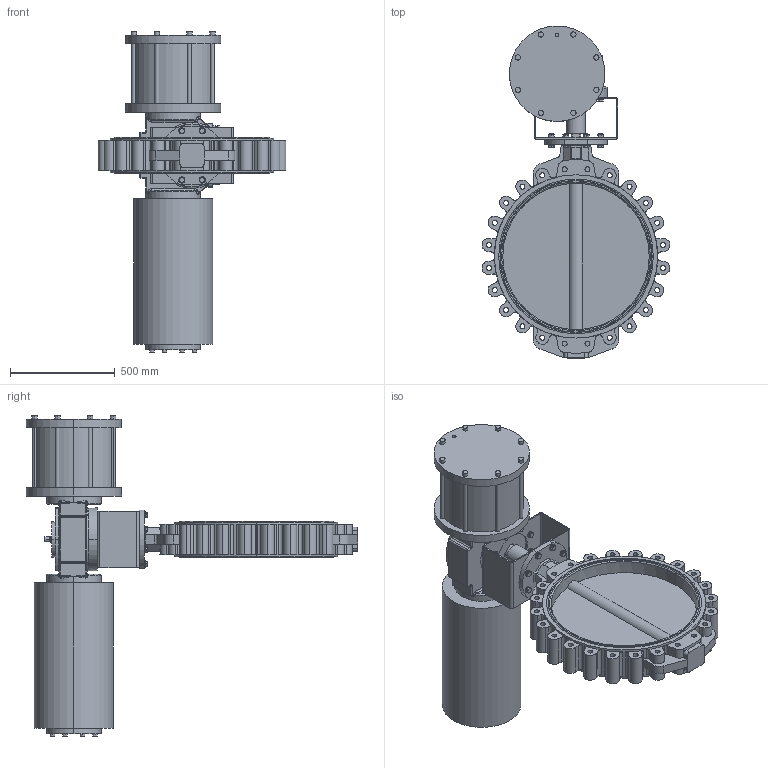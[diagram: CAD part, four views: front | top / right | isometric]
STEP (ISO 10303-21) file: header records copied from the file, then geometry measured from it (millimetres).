
FILE_DESCRIPTION (( 'STEP AP214' ), '1' );
FILE_NAME ('67383.step', '2020-10-23T12:39:24', ( '' ), ( '' ), 'SwSTEP 2.0', 'SolidWorks 2019', '' );
FILE_SCHEMA (( 'AUTOMOTIVE_DESIGN' ));
Length unit declared in the file: millimetre
Products named in the file (10): 6kt-Schr DIN 933_M16x55; SY01F25-400 SR6; 6kt-Schr DIN 933_M16x30; Passfeder DIN 6885 A_20_12x125; U-Scheibe DIN 125 A_M16; MB F25-F25_MB F25-F25 (1.4301); TL20-0700_M01; 6kt-Mu DIN 934_M16; 67383; 67386
Assembly tree (53 placements, depth 2):
  67383
    TL20-0700_M01
    SY01F25-400 SR6
    U-Scheibe DIN 125 A_M16  x24
    6kt-Schr DIN 933_M16x55  x8
    MB F25-F25_MB F25-F25 (1.4301)
    6kt-Mu DIN 934_M16  x8
    6kt-Schr DIN 933_M16x30  x8
    67386
    Passfeder DIN 6885 A_20_12x125
Bounding box: 896.78 x 1585 x 1530 mm (x, y, z)
Volume: 199340713.7 mm3; surface area: 5934771.1 mm2
Topology: 53 solids, 53 shells, 1710 faces, 3995 edges, 2440 vertices
Faces by surface type: plane 667, cylinder 641, cone 265, bspline 83, torus 54
Entity records: 38703 total; most frequent: CARTESIAN_POINT 11451, DIRECTION 5530, ORIENTED_EDGE 5106, EDGE_CURVE 2553, AXIS2_PLACEMENT_3D 2208, VERTEX_POINT 1612, EDGE_LOOP 1219, CIRCLE 1195
